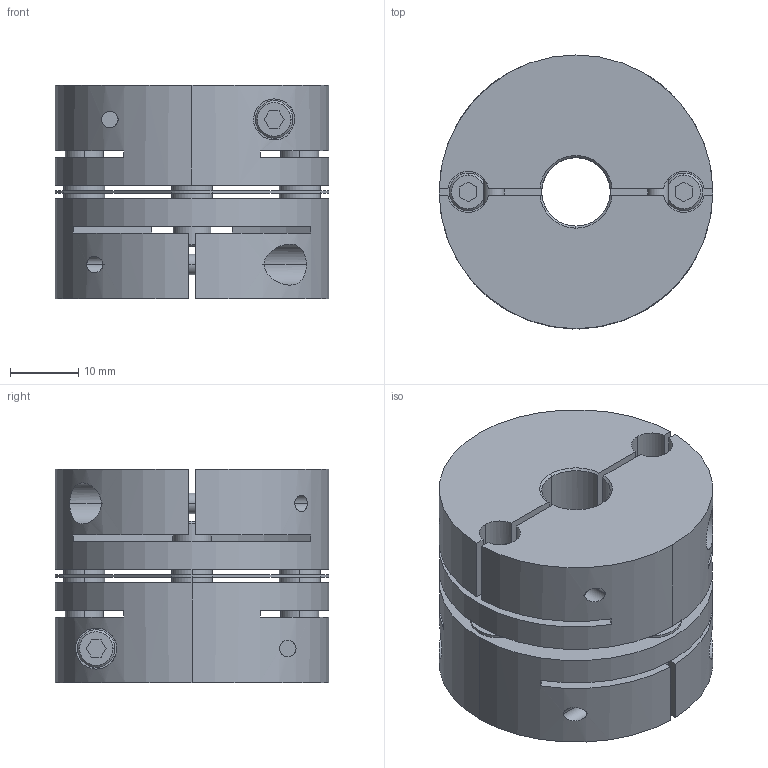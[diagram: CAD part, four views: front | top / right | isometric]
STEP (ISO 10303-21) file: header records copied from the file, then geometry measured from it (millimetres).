
FILE_DESCRIPTION((''),'2;1');
FILE_NAME('LAS-40C-10×15.stp','2011-08-11T08:54:18',(''),(''),'AutoCAD STEP 2000i','AutoCAD 2000i',', , ');
FILE_SCHEMA(('CONFIG_CONTROL_DESIGN'));
Length unit declared in the file: millimetre
Products named in the file (6): LAS-40C-10×15; 忣兜1; LA-4002-D15; LA-4002-D10-1; LA-4002-D10; LAS40-ITA
Assembly tree (5 placements, depth 2):
  LAS-40C-10×15
    忣兜1
    LA-4002-D15
    LA-4002-D10-1
    LA-4002-D10
    LAS40-ITA
Bounding box: 40 x 40 x 31.2 mm (x, y, z)
Volume: 30338.6 mm3; surface area: 15367.2 mm2
Topology: 1 solids, 1 shells, 236 faces, 624 edges, 408 vertices
Faces by surface type: plane 112, cylinder 96, cone 28
Entity records: 8177 total; most frequent: CARTESIAN_POINT 1970, DIRECTION 1304, ORIENTED_EDGE 1248, EDGE_CURVE 624, AXIS2_PLACEMENT_3D 478, VERTEX_POINT 408, VECTOR 348, LINE 348
